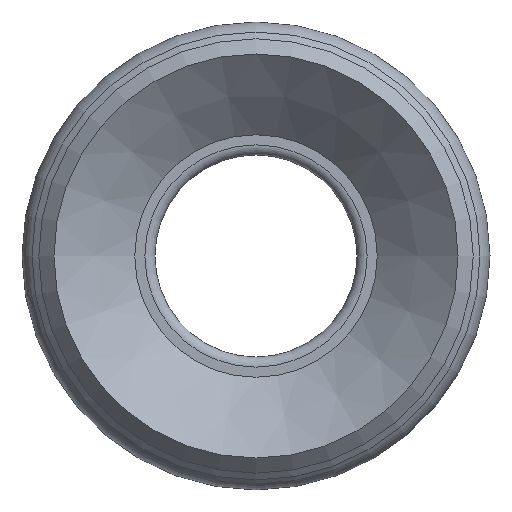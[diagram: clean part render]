
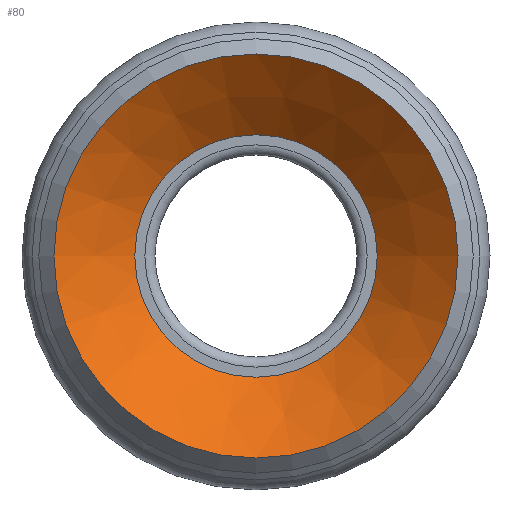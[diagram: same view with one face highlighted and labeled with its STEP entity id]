
A CAD part, front view. The second image highlights one B-rep face of the part: STEP entity #80.
In plain terms, the highlighted conical face has half-angle 49 degrees and reference radius 1.2 mm.
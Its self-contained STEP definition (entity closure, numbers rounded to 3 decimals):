
#80=ADVANCED_FACE('',(#112,#113),#114,.F.);
#112=FACE_OUTER_BOUND('',#175,.T.);
#113=FACE_BOUND('',#176,.T.);
#114=CONICAL_SURFACE('',#177,1.2,0.855);
#175=EDGE_LOOP('',(#248));
#176=EDGE_LOOP('',(#249));
#177=AXIS2_PLACEMENT_3D('',#250,#251,#252);
#248=ORIENTED_EDGE('',*,*,#334,.T.);
#249=ORIENTED_EDGE('',*,*,#335,.F.);
#250=CARTESIAN_POINT('',(0.0,6.627,0.));
#251=DIRECTION('',(-0.0,-1.0,0.));
#252=DIRECTION('',(0.0,0.,-1.0));
#334=EDGE_CURVE('',#361,#361,#362,.T.);
#335=EDGE_CURVE('',#363,#363,#364,.T.);
#361=VERTEX_POINT('',#403);
#362=CIRCLE('',#404,2.0);
#363=VERTEX_POINT('',#405);
#364=CIRCLE('',#406,1.2);
#403=CARTESIAN_POINT('',(2.0,5.931,0.));
#404=AXIS2_PLACEMENT_3D('',#451,#452,#453);
#405=CARTESIAN_POINT('',(1.2,6.627,0.));
#406=AXIS2_PLACEMENT_3D('',#454,#455,#456);
#451=CARTESIAN_POINT('',(0.0,5.931,0.));
#452=DIRECTION('',(0.0,-1.0,0.));
#453=DIRECTION('',(0.0,0.,-1.0));
#454=CARTESIAN_POINT('',(0.0,6.627,0.));
#455=DIRECTION('',(0.0,-1.0,0.));
#456=DIRECTION('',(0.0,0.,-1.0));
